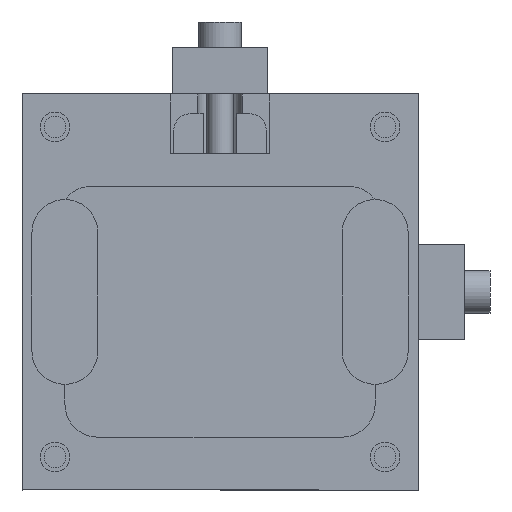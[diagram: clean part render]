
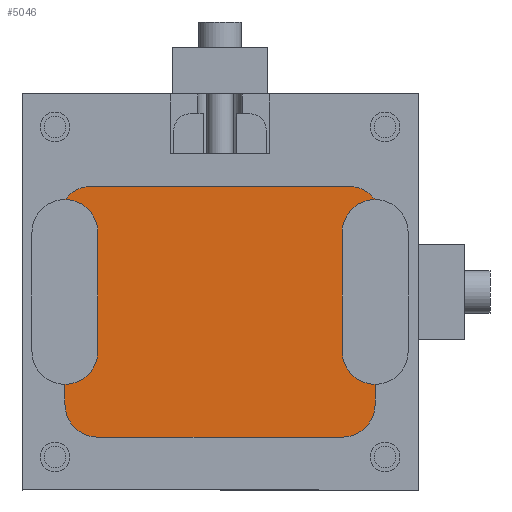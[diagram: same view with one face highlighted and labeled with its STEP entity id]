
A CAD part, front view. The second image highlights one B-rep face of the part: STEP entity #5046.
In plain terms, the highlighted planar face has unit normal (0, -1, 0).
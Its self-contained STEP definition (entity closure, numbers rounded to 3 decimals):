
#2 = DIRECTION ( 'NONE',  ( -1., 0., 0. ) ) ;
#22 = VERTEX_POINT ( 'NONE', #2624 ) ;
#32 = CARTESIAN_POINT ( 'NONE',  ( 9., 0.1, -48.5 ) ) ;
#98 = DIRECTION ( 'NONE',  ( -1., 0., 0. ) ) ;
#360 = ORIENTED_EDGE ( 'NONE', *, *, #5103, .T. ) ;
#365 = VERTEX_POINT ( 'NONE', #821 ) ;
#538 = EDGE_CURVE ( 'NONE', #3295, #3290, #6725, .T. ) ;
#569 = VERTEX_POINT ( 'NONE', #1983 ) ;
#620 = CARTESIAN_POINT ( 'NONE',  ( 11., 0.1, -10.5 ) ) ;
#627 = PLANE ( 'NONE',  #5898 ) ;
#652 = DIRECTION ( 'NONE',  ( 0., -1., 0. ) ) ;
#680 = CARTESIAN_POINT ( 'NONE',  ( -17., 0.1, -11.5 ) ) ;
#821 = CARTESIAN_POINT ( 'NONE',  ( -22., 0.1, -48.5 ) ) ;
#873 = DIRECTION ( 'NONE',  ( 0., 1., 0. ) ) ;
#925 = DIRECTION ( 'NONE',  ( 0., -1., 0. ) ) ;
#968 = VECTOR ( 'NONE', #8561, 1000. ) ;
#1027 = LINE ( 'NONE', #1378, #6561 ) ;
#1091 = VECTOR ( 'NONE', #4298, 1000. ) ;
#1100 = VERTEX_POINT ( 'NONE', #8597 ) ;
#1175 = AXIS2_PLACEMENT_3D ( 'NONE', #8432, #4185, #2 ) ;
#1190 = CARTESIAN_POINT ( 'NONE',  ( 9., 0.1, -11.5 ) ) ;
#1214 = EDGE_CURVE ( 'NONE', #569, #7984, #6604, .T. ) ;
#1241 = VERTEX_POINT ( 'NONE', #7664 ) ;
#1252 = VECTOR ( 'NONE', #2160, 1000. ) ;
#1273 = CARTESIAN_POINT ( 'NONE',  ( 9., 0.1, -53.5 ) ) ;
#1315 = DIRECTION ( 'NONE',  ( -1., 0., 0. ) ) ;
#1376 = DIRECTION ( 'NONE',  ( -1., 0., 0. ) ) ;
#1378 = CARTESIAN_POINT ( 'NONE',  ( -22., 0.1, -53.5 ) ) ;
#1454 = LINE ( 'NONE', #7895, #4975 ) ;
#1528 = AXIS2_PLACEMENT_3D ( 'NONE', #8513, #4278, #98 ) ;
#1697 = EDGE_CURVE ( 'NONE', #1100, #8094, #7687, .T. ) ;
#1769 = ORIENTED_EDGE ( 'NONE', *, *, #6406, .T. ) ;
#1782 = ORIENTED_EDGE ( 'NONE', *, *, #7477, .T. ) ;
#1850 = CARTESIAN_POINT ( 'NONE',  ( -9., 0.1, -11.5 ) ) ;
#1969 = DIRECTION ( 'NONE',  ( -1., 0., 0. ) ) ;
#1983 = CARTESIAN_POINT ( 'NONE',  ( -9., 0.1, -48.5 ) ) ;
#2035 = ORIENTED_EDGE ( 'NONE', *, *, #3013, .T. ) ;
#2160 = DIRECTION ( 'NONE',  ( 0., 0., -1. ) ) ;
#2342 = ORIENTED_EDGE ( 'NONE', *, *, #7023, .T. ) ;
#2576 = CIRCLE ( 'NONE', #3839, 5. ) ;
#2624 = CARTESIAN_POINT ( 'NONE',  ( -17., 0.1, -53.5 ) ) ;
#2629 = ORIENTED_EDGE ( 'NONE', *, *, #8078, .T. ) ;
#2844 = CARTESIAN_POINT ( 'NONE',  ( 16., 0.1, -53.5 ) ) ;
#2888 = AXIS2_PLACEMENT_3D ( 'NONE', #7960, #3714, #8643 ) ;
#3013 = EDGE_CURVE ( 'NONE', #3290, #4736, #8229, .T. ) ;
#3014 = EDGE_CURVE ( 'NONE', #365, #22, #2576, .T. ) ;
#3017 = VECTOR ( 'NONE', #7811, 1000. ) ;
#3290 = VERTEX_POINT ( 'NONE', #1850 ) ;
#3295 = VERTEX_POINT ( 'NONE', #1190 ) ;
#3714 = DIRECTION ( 'NONE',  ( 0., 1., 0. ) ) ;
#3778 = CIRCLE ( 'NONE', #4944, 5. ) ;
#3839 = AXIS2_PLACEMENT_3D ( 'NONE', #5138, #925, #5866 ) ;
#3972 = ORIENTED_EDGE ( 'NONE', *, *, #1697, .T. ) ;
#4164 = AXIS2_PLACEMENT_3D ( 'NONE', #620, #5550, #1315 ) ;
#4185 = DIRECTION ( 'NONE',  ( 0., -1., 0. ) ) ;
#4278 = DIRECTION ( 'NONE',  ( 0., 1., 0. ) ) ;
#4298 = DIRECTION ( 'NONE',  ( -1., 0., 0. ) ) ;
#4301 = CARTESIAN_POINT ( 'NONE',  ( -9., 0.1, -48.5 ) ) ;
#4354 = DIRECTION ( 'NONE',  ( -1., 0., 0. ) ) ;
#4525 = AXIS2_PLACEMENT_3D ( 'NONE', #1273, #6224, #1969 ) ;
#4716 = EDGE_LOOP ( 'NONE', ( #5672, #5628, #360, #7076, #2342, #5968, #2035, #2629, #3972, #1769, #8963, #7051, #1782, #8173 ) ) ;
#4736 = VERTEX_POINT ( 'NONE', #7360 ) ;
#4762 = LINE ( 'NONE', #6413, #1252 ) ;
#4854 = CARTESIAN_POINT ( 'NONE',  ( 16., 0.1, -53.5 ) ) ;
#4877 = CARTESIAN_POINT ( 'NONE',  ( 14., 0.1, -53.5 ) ) ;
#4891 = LINE ( 'NONE', #2844, #3017 ) ;
#4944 = AXIS2_PLACEMENT_3D ( 'NONE', #5081, #873, #5809 ) ;
#4975 = VECTOR ( 'NONE', #4354, 1000. ) ;
#4982 = CIRCLE ( 'NONE', #4525, 5. ) ;
#5046 = ADVANCED_FACE ( 'NONE', ( #9069 ), #627, .T. ) ;
#5070 = CARTESIAN_POINT ( 'NONE',  ( -22., 0.1, -11.5 ) ) ;
#5077 = VERTEX_POINT ( 'NONE', #4877 ) ;
#5081 = CARTESIAN_POINT ( 'NONE',  ( -9., 0.1, -53.5 ) ) ;
#5103 = EDGE_CURVE ( 'NONE', #6730, #1241, #4891, .T. ) ;
#5138 = CARTESIAN_POINT ( 'NONE',  ( -17., 0.1, -48.5 ) ) ;
#5422 = CARTESIAN_POINT ( 'NONE',  ( 14., 0.1, -6.5 ) ) ;
#5427 = CIRCLE ( 'NONE', #4164, 5. ) ;
#5533 = VERTEX_POINT ( 'NONE', #5422 ) ;
#5550 = DIRECTION ( 'NONE',  ( 0., -1., 0. ) ) ;
#5583 = DIRECTION ( 'NONE',  ( -1., 0., 0. ) ) ;
#5605 = DIRECTION ( 'NONE',  ( 0., -1., 0. ) ) ;
#5628 = ORIENTED_EDGE ( 'NONE', *, *, #5670, .T. ) ;
#5670 = EDGE_CURVE ( 'NONE', #5077, #6730, #6346, .T. ) ;
#5672 = ORIENTED_EDGE ( 'NONE', *, *, #6856, .T. ) ;
#5809 = DIRECTION ( 'NONE',  ( -1., 0., 0. ) ) ;
#5866 = DIRECTION ( 'NONE',  ( -1., 0., 0. ) ) ;
#5898 = AXIS2_PLACEMENT_3D ( 'NONE', #4854, #652, #5583 ) ;
#5968 = ORIENTED_EDGE ( 'NONE', *, *, #538, .T. ) ;
#6224 = DIRECTION ( 'NONE',  ( 0., 1., 0. ) ) ;
#6326 = DIRECTION ( 'NONE',  ( 1., 0., 0. ) ) ;
#6346 = CIRCLE ( 'NONE', #1175, 5. ) ;
#6406 = EDGE_CURVE ( 'NONE', #8094, #365, #4762, .T. ) ;
#6413 = CARTESIAN_POINT ( 'NONE',  ( -22., 0.1, -53.5 ) ) ;
#6561 = VECTOR ( 'NONE', #6326, 1000. ) ;
#6604 = LINE ( 'NONE', #4301, #968 ) ;
#6725 = LINE ( 'NONE', #8529, #1091 ) ;
#6730 = VERTEX_POINT ( 'NONE', #7488 ) ;
#6856 = EDGE_CURVE ( 'NONE', #7984, #5077, #4982, .T. ) ;
#6936 = CARTESIAN_POINT ( 'NONE',  ( -14., 0.1, -53.5 ) ) ;
#7023 = EDGE_CURVE ( 'NONE', #5533, #3295, #9034, .T. ) ;
#7051 = ORIENTED_EDGE ( 'NONE', *, *, #7369, .T. ) ;
#7076 = ORIENTED_EDGE ( 'NONE', *, *, #7304, .T. ) ;
#7290 = VERTEX_POINT ( 'NONE', #6936 ) ;
#7304 = EDGE_CURVE ( 'NONE', #1241, #5533, #5427, .T. ) ;
#7360 = CARTESIAN_POINT ( 'NONE',  ( -14., 0.1, -6.5 ) ) ;
#7369 = EDGE_CURVE ( 'NONE', #22, #7290, #1027, .T. ) ;
#7477 = EDGE_CURVE ( 'NONE', #7290, #569, #3778, .T. ) ;
#7488 = CARTESIAN_POINT ( 'NONE',  ( 16., 0.1, -49.5 ) ) ;
#7664 = CARTESIAN_POINT ( 'NONE',  ( 16., 0.1, -10.5 ) ) ;
#7687 = CIRCLE ( 'NONE', #8051, 5. ) ;
#7811 = DIRECTION ( 'NONE',  ( 0., 0., 1. ) ) ;
#7895 = CARTESIAN_POINT ( 'NONE',  ( -22., 0.1, -6.5 ) ) ;
#7960 = CARTESIAN_POINT ( 'NONE',  ( -9., 0.1, -6.5 ) ) ;
#7984 = VERTEX_POINT ( 'NONE', #32 ) ;
#8051 = AXIS2_PLACEMENT_3D ( 'NONE', #680, #5605, #1376 ) ;
#8078 = EDGE_CURVE ( 'NONE', #4736, #1100, #1454, .T. ) ;
#8094 = VERTEX_POINT ( 'NONE', #5070 ) ;
#8173 = ORIENTED_EDGE ( 'NONE', *, *, #1214, .T. ) ;
#8229 = CIRCLE ( 'NONE', #2888, 5. ) ;
#8432 = CARTESIAN_POINT ( 'NONE',  ( 11., 0.1, -49.5 ) ) ;
#8513 = CARTESIAN_POINT ( 'NONE',  ( 9., 0.1, -6.5 ) ) ;
#8529 = CARTESIAN_POINT ( 'NONE',  ( 16., 0.1, -11.5 ) ) ;
#8561 = DIRECTION ( 'NONE',  ( 1., 0., 0. ) ) ;
#8597 = CARTESIAN_POINT ( 'NONE',  ( -17., 0.1, -6.5 ) ) ;
#8643 = DIRECTION ( 'NONE',  ( -1., 0., 0. ) ) ;
#8963 = ORIENTED_EDGE ( 'NONE', *, *, #3014, .T. ) ;
#9034 = CIRCLE ( 'NONE', #1528, 5. ) ;
#9069 = FACE_OUTER_BOUND ( 'NONE', #4716, .T. ) ;
